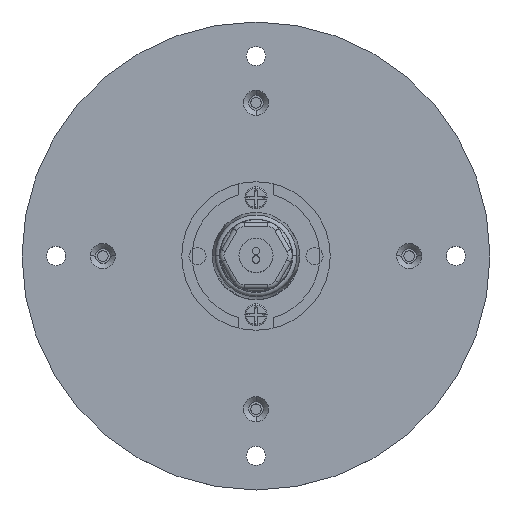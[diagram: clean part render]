
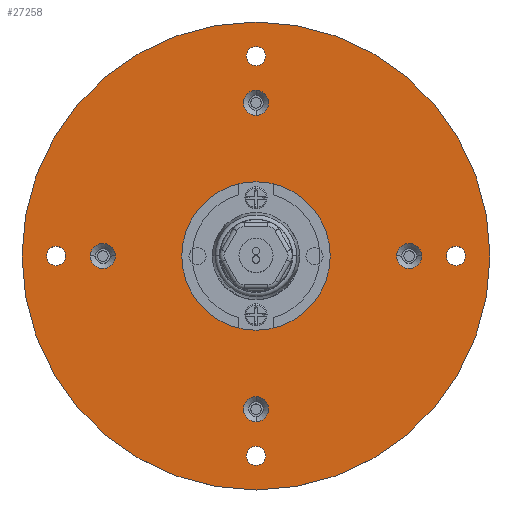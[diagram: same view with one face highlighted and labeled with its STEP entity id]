
A CAD part, top view. The second image highlights one B-rep face of the part: STEP entity #27258.
In plain terms, the highlighted planar face has unit normal (0, 0, 1).
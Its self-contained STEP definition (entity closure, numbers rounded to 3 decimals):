
#26761=CARTESIAN_POINT('',(0.,0.,1.5));
#26762=DIRECTION('',(0.,0.,1.));
#26763=DIRECTION('',(-1.,0.,0.));
#26764=AXIS2_PLACEMENT_3D('',#26761,#26762,#26763);
#26766=CARTESIAN_POINT('',(0.,0.,1.5));
#26767=DIRECTION('',(0.,0.,1.));
#26768=DIRECTION('',(1.,0.,0.));
#26769=AXIS2_PLACEMENT_3D('',#26766,#26767,#26768);
#26771=CARTESIAN_POINT('',(36.,0.,1.5));
#26772=DIRECTION('',(0.,0.,-1.));
#26773=DIRECTION('',(1.,0.,0.));
#26774=AXIS2_PLACEMENT_3D('',#26771,#26772,#26773);
#26776=CARTESIAN_POINT('',(36.,0.,1.5));
#26777=DIRECTION('',(0.,0.,-1.));
#26778=DIRECTION('',(-1.,0.,0.));
#26779=AXIS2_PLACEMENT_3D('',#26776,#26777,#26778);
#26781=CARTESIAN_POINT('',(0.,36.,1.5));
#26782=DIRECTION('',(0.,0.,-1.));
#26783=DIRECTION('',(0.,1.,0.));
#26784=AXIS2_PLACEMENT_3D('',#26781,#26782,#26783);
#26786=CARTESIAN_POINT('',(0.,36.,1.5));
#26787=DIRECTION('',(0.,0.,-1.));
#26788=DIRECTION('',(0.,-1.,0.));
#26789=AXIS2_PLACEMENT_3D('',#26786,#26787,#26788);
#26791=CARTESIAN_POINT('',(-36.,0.,1.5));
#26792=DIRECTION('',(0.,0.,-1.));
#26793=DIRECTION('',(1.,0.,0.));
#26794=AXIS2_PLACEMENT_3D('',#26791,#26792,#26793);
#26796=CARTESIAN_POINT('',(-36.,0.,1.5));
#26797=DIRECTION('',(0.,0.,-1.));
#26798=DIRECTION('',(-1.,0.,0.));
#26799=AXIS2_PLACEMENT_3D('',#26796,#26797,#26798);
#26801=CARTESIAN_POINT('',(0.,-36.,1.5));
#26802=DIRECTION('',(0.,0.,-1.));
#26803=DIRECTION('',(0.,-1.,0.));
#26804=AXIS2_PLACEMENT_3D('',#26801,#26802,#26803);
#26806=CARTESIAN_POINT('',(0.,-36.,1.5));
#26807=DIRECTION('',(0.,0.,-1.));
#26808=DIRECTION('',(0.,1.,0.));
#26809=AXIS2_PLACEMENT_3D('',#26806,#26807,#26808);
#26811=CARTESIAN_POINT('',(0.,47.,1.5));
#26812=DIRECTION('',(0.,0.,1.));
#26813=DIRECTION('',(1.,0.,0.));
#26814=AXIS2_PLACEMENT_3D('',#26811,#26812,#26813);
#26816=CARTESIAN_POINT('',(0.,47.,1.5));
#26817=DIRECTION('',(0.,0.,1.));
#26818=DIRECTION('',(-1.,0.,0.));
#26819=AXIS2_PLACEMENT_3D('',#26816,#26817,#26818);
#26821=CARTESIAN_POINT('',(-47.,0.,1.5));
#26822=DIRECTION('',(0.,0.,1.));
#26823=DIRECTION('',(0.,1.,0.));
#26824=AXIS2_PLACEMENT_3D('',#26821,#26822,#26823);
#26826=CARTESIAN_POINT('',(-47.,0.,1.5));
#26827=DIRECTION('',(0.,0.,1.));
#26828=DIRECTION('',(0.,-1.,0.));
#26829=AXIS2_PLACEMENT_3D('',#26826,#26827,#26828);
#26831=CARTESIAN_POINT('',(0.,-47.,1.5));
#26832=DIRECTION('',(0.,0.,1.));
#26833=DIRECTION('',(-1.,0.,0.));
#26834=AXIS2_PLACEMENT_3D('',#26831,#26832,#26833);
#26836=CARTESIAN_POINT('',(0.,-47.,1.5));
#26837=DIRECTION('',(0.,0.,1.));
#26838=DIRECTION('',(1.,0.,0.));
#26839=AXIS2_PLACEMENT_3D('',#26836,#26837,#26838);
#26841=CARTESIAN_POINT('',(47.,0.,1.5));
#26842=DIRECTION('',(0.,0.,1.));
#26843=DIRECTION('',(0.,-1.,0.));
#26844=AXIS2_PLACEMENT_3D('',#26841,#26842,#26843);
#26846=CARTESIAN_POINT('',(47.,0.,1.5));
#26847=DIRECTION('',(0.,0.,1.));
#26848=DIRECTION('',(0.,1.,0.));
#26849=AXIS2_PLACEMENT_3D('',#26846,#26847,#26848);
#26851=CARTESIAN_POINT('',(0.,0.,1.5));
#26852=DIRECTION('',(0.,0.,-1.));
#26853=DIRECTION('',(-1.,0.,0.));
#26854=AXIS2_PLACEMENT_3D('',#26851,#26852,#26853);
#26856=CARTESIAN_POINT('',(0.,0.,1.5));
#26857=DIRECTION('',(0.,0.,-1.));
#26858=DIRECTION('',(1.,0.,0.));
#26859=AXIS2_PLACEMENT_3D('',#26856,#26857,#26858);
#27021=CARTESIAN_POINT('',(38.95,0.,1.5));
#27022=CARTESIAN_POINT('',(33.05,0.,1.5));
#27023=VERTEX_POINT('',#27021);
#27024=VERTEX_POINT('',#27022);
#27029=CARTESIAN_POINT('',(0.,38.95,1.5));
#27030=CARTESIAN_POINT('',(0.,33.05,1.5));
#27031=VERTEX_POINT('',#27029);
#27032=VERTEX_POINT('',#27030);
#27037=CARTESIAN_POINT('',(-33.05,0.,1.5));
#27038=CARTESIAN_POINT('',(-38.95,0.,1.5));
#27039=VERTEX_POINT('',#27037);
#27040=VERTEX_POINT('',#27038);
#27045=CARTESIAN_POINT('',(0.,-38.95,1.5));
#27046=CARTESIAN_POINT('',(0.,-33.05,1.5));
#27047=VERTEX_POINT('',#27045);
#27048=VERTEX_POINT('',#27046);
#27053=CARTESIAN_POINT('',(2.25,47.,1.5));
#27054=CARTESIAN_POINT('',(-2.25,47.,1.5));
#27055=VERTEX_POINT('',#27053);
#27056=VERTEX_POINT('',#27054);
#27061=CARTESIAN_POINT('',(-47.,2.25,1.5));
#27062=CARTESIAN_POINT('',(-47.,-2.25,1.5));
#27063=VERTEX_POINT('',#27061);
#27064=VERTEX_POINT('',#27062);
#27069=CARTESIAN_POINT('',(-2.25,-47.,1.5));
#27070=CARTESIAN_POINT('',(2.25,-47.,1.5));
#27071=VERTEX_POINT('',#27069);
#27072=VERTEX_POINT('',#27070);
#27077=CARTESIAN_POINT('',(47.,-2.25,1.5));
#27078=CARTESIAN_POINT('',(47.,2.25,1.5));
#27079=VERTEX_POINT('',#27077);
#27080=VERTEX_POINT('',#27078);
#27089=CARTESIAN_POINT('',(55.,0.,1.5));
#27090=VERTEX_POINT('',#27089);
#27091=CARTESIAN_POINT('',(-55.,0.,1.5));
#27092=VERTEX_POINT('',#27091);
#27093=CARTESIAN_POINT('',(-17.45,0.,1.5));
#27094=CARTESIAN_POINT('',(17.45,0.,1.5));
#27095=VERTEX_POINT('',#27093);
#27096=VERTEX_POINT('',#27094);
#27195=CARTESIAN_POINT('',(0.,0.,1.5));
#27196=DIRECTION('',(0.,0.,1.));
#27197=DIRECTION('',(1.,0.,0.));
#27198=AXIS2_PLACEMENT_3D('',#27195,#27196,#27197);
#27199=PLANE('',#27198);
#27200=ORIENTED_EDGE('',*,*,#27177,.F.);
#27201=ORIENTED_EDGE('',*,*,#27187,.F.);
#27202=EDGE_LOOP('',(#27200,#27201));
#27203=FACE_OUTER_BOUND('',#27202,.F.);
#27205=ORIENTED_EDGE('',*,*,#27204,.F.);
#27207=ORIENTED_EDGE('',*,*,#27206,.F.);
#27208=EDGE_LOOP('',(#27205,#27207));
#27209=FACE_BOUND('',#27208,.F.);
#27211=ORIENTED_EDGE('',*,*,#27210,.F.);
#27213=ORIENTED_EDGE('',*,*,#27212,.F.);
#27214=EDGE_LOOP('',(#27211,#27213));
#27215=FACE_BOUND('',#27214,.F.);
#27217=ORIENTED_EDGE('',*,*,#27216,.F.);
#27219=ORIENTED_EDGE('',*,*,#27218,.F.);
#27220=EDGE_LOOP('',(#27217,#27219));
#27221=FACE_BOUND('',#27220,.F.);
#27223=ORIENTED_EDGE('',*,*,#27222,.F.);
#27225=ORIENTED_EDGE('',*,*,#27224,.F.);
#27226=EDGE_LOOP('',(#27223,#27225));
#27227=FACE_BOUND('',#27226,.F.);
#27229=ORIENTED_EDGE('',*,*,#27228,.T.);
#27231=ORIENTED_EDGE('',*,*,#27230,.T.);
#27232=EDGE_LOOP('',(#27229,#27231));
#27233=FACE_BOUND('',#27232,.F.);
#27235=ORIENTED_EDGE('',*,*,#27234,.T.);
#27237=ORIENTED_EDGE('',*,*,#27236,.T.);
#27238=EDGE_LOOP('',(#27235,#27237));
#27239=FACE_BOUND('',#27238,.F.);
#27241=ORIENTED_EDGE('',*,*,#27240,.T.);
#27243=ORIENTED_EDGE('',*,*,#27242,.T.);
#27244=EDGE_LOOP('',(#27241,#27243));
#27245=FACE_BOUND('',#27244,.F.);
#27247=ORIENTED_EDGE('',*,*,#27246,.T.);
#27249=ORIENTED_EDGE('',*,*,#27248,.T.);
#27250=EDGE_LOOP('',(#27247,#27249));
#27251=FACE_BOUND('',#27250,.F.);
#27253=ORIENTED_EDGE('',*,*,#27252,.F.);
#27255=ORIENTED_EDGE('',*,*,#27254,.F.);
#27256=EDGE_LOOP('',(#27253,#27255));
#27257=FACE_BOUND('',#27256,.F.);
#27258=ADVANCED_FACE('',(#27203,#27209,#27215,#27221,#27227,#27233,#27239,
#27245,#27251,#27257),#27199,.T.);
#26765=CIRCLE('',#26764,55.);
#26770=CIRCLE('',#26769,55.);
#26775=CIRCLE('',#26774,2.95);
#26780=CIRCLE('',#26779,2.95);
#26785=CIRCLE('',#26784,2.95);
#26790=CIRCLE('',#26789,2.95);
#26795=CIRCLE('',#26794,2.95);
#26800=CIRCLE('',#26799,2.95);
#26805=CIRCLE('',#26804,2.95);
#26810=CIRCLE('',#26809,2.95);
#26815=CIRCLE('',#26814,2.25);
#26820=CIRCLE('',#26819,2.25);
#26825=CIRCLE('',#26824,2.25);
#26830=CIRCLE('',#26829,2.25);
#26835=CIRCLE('',#26834,2.25);
#26840=CIRCLE('',#26839,2.25);
#26845=CIRCLE('',#26844,2.25);
#26850=CIRCLE('',#26849,2.25);
#26855=CIRCLE('',#26854,17.45);
#26860=CIRCLE('',#26859,17.45);
#27177=EDGE_CURVE('',#27092,#27090,#26765,.T.);
#27187=EDGE_CURVE('',#27090,#27092,#26770,.T.);
#27204=EDGE_CURVE('',#27023,#27024,#26775,.T.);
#27206=EDGE_CURVE('',#27024,#27023,#26780,.T.);
#27210=EDGE_CURVE('',#27031,#27032,#26785,.T.);
#27212=EDGE_CURVE('',#27032,#27031,#26790,.T.);
#27216=EDGE_CURVE('',#27039,#27040,#26795,.T.);
#27218=EDGE_CURVE('',#27040,#27039,#26800,.T.);
#27222=EDGE_CURVE('',#27047,#27048,#26805,.T.);
#27224=EDGE_CURVE('',#27048,#27047,#26810,.T.);
#27228=EDGE_CURVE('',#27055,#27056,#26815,.T.);
#27230=EDGE_CURVE('',#27056,#27055,#26820,.T.);
#27234=EDGE_CURVE('',#27063,#27064,#26825,.T.);
#27236=EDGE_CURVE('',#27064,#27063,#26830,.T.);
#27240=EDGE_CURVE('',#27071,#27072,#26835,.T.);
#27242=EDGE_CURVE('',#27072,#27071,#26840,.T.);
#27246=EDGE_CURVE('',#27079,#27080,#26845,.T.);
#27248=EDGE_CURVE('',#27080,#27079,#26850,.T.);
#27252=EDGE_CURVE('',#27095,#27096,#26855,.T.);
#27254=EDGE_CURVE('',#27096,#27095,#26860,.T.);
